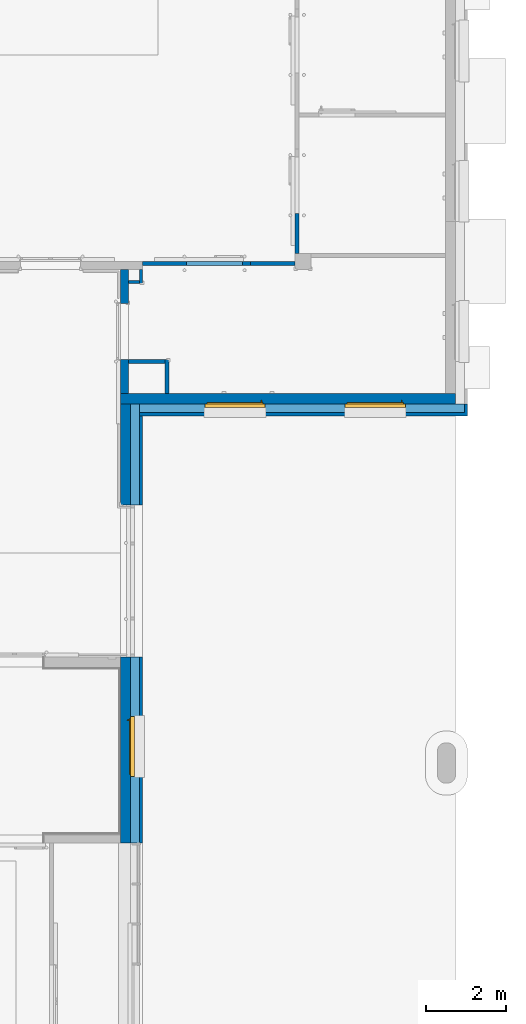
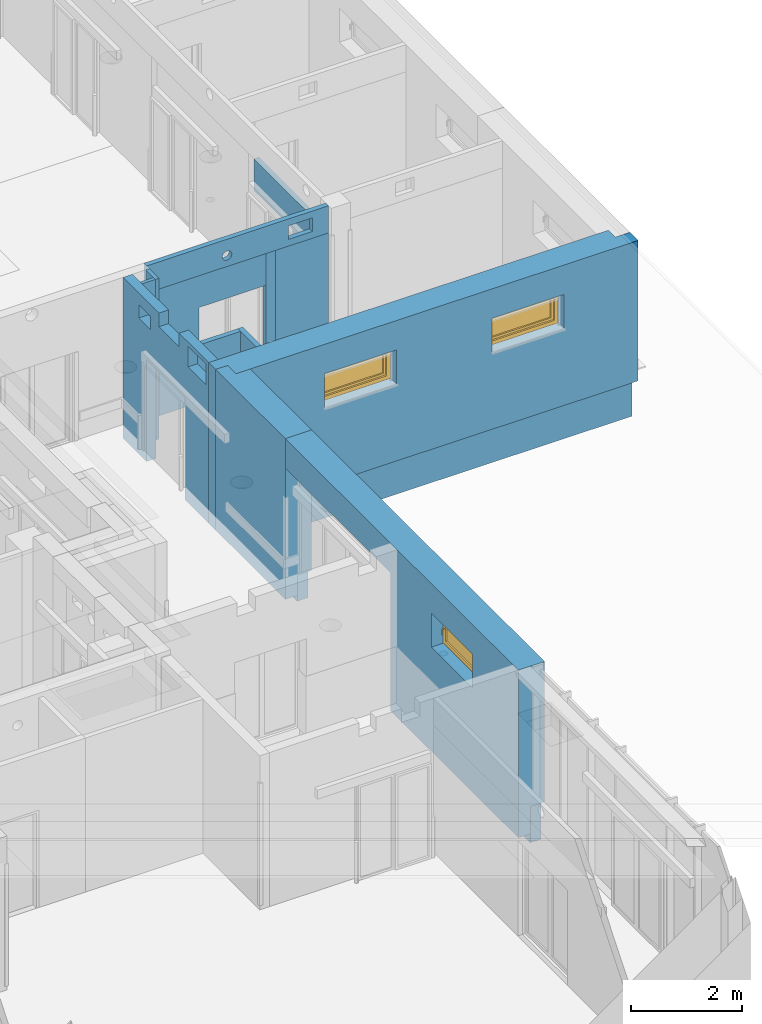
# One storey, part 56 of 140: 16 walls, 3 windows, 12 openings.
"""IFC4 building model written with IfcOpenShell, lengths in metres."""

from ifc_helpers import new_model, entity, si_unit, converted_unit, derived_unit, frame, frame_2d, origin, origin_with_axes, place, context, subcontext, project, spatial, polyline, rectangle, outline, extrude, clip, bounded_halfspace, closed_shell, open_shell, surface_model, source, transform, mapped, material, layer, layer_set, layer_usage, element, fill, save


model = new_model("IFC4")

# Units and contexts
model_context = context("Model", 3, precision=1e-05, world=origin())
body_context = subcontext(model_context, "Body", "Model", "MODEL_VIEW")
ifc_project = project(units=[si_unit("LENGTHUNIT", "METRE"), si_unit("AREAUNIT", "SQUARE_METRE"), si_unit("VOLUMEUNIT", "CUBIC_METRE"), si_unit("MASSUNIT", "GRAM", prefix="KILO"), converted_unit("PLANEANGLEUNIT", "DEGREE", entity("IfcPlaneAngleMeasure", 0.0174532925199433), si_unit("PLANEANGLEUNIT", "RADIAN"), dimensions=[0, 0, 0, 0, 0, 0, 0]), derived_unit("THERMALTRANSMITTANCEUNIT", [(si_unit("POWERUNIT", "WATT"), 1), (si_unit("THERMODYNAMICTEMPERATUREUNIT", "KELVIN"), -1), (si_unit("LENGTHUNIT", "METRE"), -2)]), derived_unit("VOLUMETRICFLOWRATEUNIT", [(si_unit("LENGTHUNIT", "METRE"), 3), (converted_unit("TIMEUNIT", "hour", entity("IfcTimeMeasure", 3600.0), si_unit("TIMEUNIT", "SECOND"), dimensions=[0, 0, 1, 0, 0, 0, 0]), -1), (si_unit("LENGTHUNIT", "METRE"), -1)])], contexts=[model_context])

# Site, building, storey
site_placement = place(None, origin())
site = spatial("IfcSite", under=ifc_project, at=site_placement, Name="3. ASŘ", CompositionType="ELEMENT")
building_placement = place(site_placement, origin())
building = spatial("IfcBuilding", under=site, at=building_placement, Name="Pavilon C", CompositionType="ELEMENT")
storey_placement = place(building_placement, origin())
storey = spatial("IfcBuildingStorey", under=building, at=storey_placement, Name="Půdorys 1.NP", CompositionType="ELEMENT", Elevation=0.0)

# Walls
ifc_material_1 = material(Name="PROSKLENÁ PŘÍČKA DVOJITÁ")
ifc_layer_1 = layer(ifc_material_1, 0.1)
ifc_layer_set_1 = layer_set([ifc_layer_1])
ifc_layer_usage_1 = layer_usage(ifc_layer_set_1, "AXIS2", "POSITIVE", 0.0)
wall_1_placement = place(storey_placement, frame((58.692, 9.79999999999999, 0.0), z_axis=(0.0, 0.0, 1.0), x_axis=(1.0, -1.64168718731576e-15, 0.0)))
element("IfcWall", 1, at=wall_1_placement, inside=storey, material=ifc_layer_usage_1, Name="PROSKLENÁ PŘÍČKA DVOJITÁ", context=body_context, shape_type="SweptSolid", body=[
    extrude(rectangle(XDim=1.108, YDim=0.1, at=frame_2d((0.554, 0.05), x_axis=(1.0, 0.0))), origin_with_axes(), (0.0, 0.0, 1.0), 2.8),
])
ifc_material_2 = material(Name="PROSKLENÁ PŘÍČKA PLNÝ PANEL")
ifc_layer_2 = layer(ifc_material_2, 0.1)
ifc_layer_set_2 = layer_set([ifc_layer_2])
ifc_layer_usage_2 = layer_usage(ifc_layer_set_2, "AXIS2", "POSITIVE", 0.0)
wall_2_placement = place(storey_placement, frame((58.492, 9.79999999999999, 0.0)))
element("IfcWall", 2, at=wall_2_placement, inside=storey, material=ifc_layer_usage_2, Name="PROSKLENÁ PŘÍČKA DVOJITÁ", context=body_context, shape_type="SweptSolid", body=[
    extrude(rectangle(XDim=0.2, YDim=0.1, at=frame_2d((0.1, 0.05), x_axis=(1.0, 0.0))), origin_with_axes(), (0.0, 0.0, 1.0), 2.8),
])

# Wall, opening
ifc_material_3 = material(Name="PROSKLENÁ PŘÍČKA DVOJITÁ")
ifc_layer_3 = layer(ifc_material_3, 0.1)
ifc_layer_set_3 = layer_set([ifc_layer_3])
ifc_layer_usage_3 = layer_usage(ifc_layer_set_3, "AXIS2", "POSITIVE", 0.0)
wall_3_placement = place(storey_placement, frame((56.0, 9.79999999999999, 0.0)))
wall_3 = element("IfcWall", 3, at=wall_3_placement, inside=storey, material=ifc_layer_usage_3, Name="PROSKLENÁ PŘÍČKA DVOJITÁ", context=body_context, shape_type="SweptSolid", body=[
    extrude(rectangle(XDim=2.492, YDim=0.1, at=frame_2d((1.246, 0.05), x_axis=(1.0, 0.0))), origin_with_axes(), (0.0, 0.0, 1.0), 2.8),
])
opening_1_placement = place(wall_3_placement, frame((2.492, 0.1, 0.0), z_axis=(0.0, -1.0, 0.0), x_axis=(0.0, 0.0, 1.0)))
element("IfcOpeningElement", 4, at=opening_1_placement, cuts=wall_3, Name="Dveřní otvor", ObjectType="Opening", context=body_context, shape_type="SweptSolid", body=[
    extrude(outline(polyline([(0.0, 1.4), (2.1, 1.4), (2.1, 0.0), (0.0, 0.0), (0.0, 1.4)])), origin_with_axes(), (0.0, 0.0, 1.0), 0.1),
])

ifc_material_4 = material(Name="PROSKLENÁ PŘÍČKA DVOJITÁ")
ifc_layer_4 = layer(ifc_material_4, 0.1)
ifc_layer_set_4 = layer_set([ifc_layer_4])
ifc_layer_usage_4 = layer_usage(ifc_layer_set_4, "AXIS2", "POSITIVE", 0.0)
wall_4_placement = place(storey_placement, frame((59.8, 12.5, 0.0), z_axis=(0.0, 0.0, 1.0), x_axis=(0.0, -1.0, 0.0)))
wall_4 = element("IfcWall", 5, at=wall_4_placement, inside=storey, material=ifc_layer_usage_4, Name="PROSKLENÁ PŘÍČKA DVOJITÁ", context=body_context, shape_type="SweptSolid", body=[
    extrude(rectangle(XDim=2.4, YDim=0.1, at=frame_2d((1.2, 0.05), x_axis=(1.0, 0.0))), origin_with_axes(), (0.0, 0.0, 1.0), 2.8),
])
opening_2_placement = place(wall_4_placement, frame((0.0, 0.0, 0.0), z_axis=(0.0, 1.0, 0.0), x_axis=(0.0, 0.0, 1.0)))
element("IfcOpeningElement", 6, at=opening_2_placement, cuts=wall_4, Name="Dveřní otvor", ObjectType="Opening", context=body_context, shape_type="SweptSolid", body=[
    extrude(outline(polyline([(0.0, 1.4), (2.1, 1.4), (2.1, 0.0), (0.0, 0.0), (0.0, 1.4)])), origin_with_axes(), (0.0, 0.0, 1.0), 0.1),
])

# Wall, openings
ifc_material_5 = material(Name="ZELEZOBETONOVÁ KCE")
ifc_layer_5 = layer(ifc_material_5, 0.2)
ifc_layer_set_5 = layer_set([ifc_layer_5])
ifc_layer_usage_5 = layer_usage(ifc_layer_set_5, "AXIS2", "POSITIVE", 0.0)
wall_5_placement = place(storey_placement, frame((55.45, 9.69999999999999, -0.15), z_axis=(0.0, 0.0, 1.0), x_axis=(0.0, -1.0, 0.0)))
wall_5 = element("IfcWall", 7, at=wall_5_placement, inside=storey, material=ifc_layer_usage_5, Name="ZELEZOBETONOVÁ KCE", context=body_context, shape_type="SweptSolid", body=[
    extrude(rectangle(XDim=3.1, YDim=0.2, at=frame_2d((1.55, 0.1), x_axis=(1.0, 0.0))), origin_with_axes(), (0.0, 0.0, 1.0), 3.55),
])
opening_3_placement = place(wall_5_placement, frame((0.85, 0.0, -0.15), z_axis=(0.0, 1.0, 0.0), x_axis=(0.0, 0.0, 1.0)))
element("IfcOpeningElement", 8, at=opening_3_placement, cuts=wall_5, Name="Dveřní otvor", ObjectType="Opening", context=body_context, shape_type="SweptSolid", body=[
    extrude(outline(polyline([(0.0, 1.4), (2.4, 1.4), (2.4, 0.0), (0.0, 0.0), (0.0, 1.4)])), origin_with_axes(), (0.0, 0.0, 1.0), 0.2),
])
opening_4_placement = place(wall_5_placement, frame((3.01000000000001, 0.199999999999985, 3.0), z_axis=(0.0, -1.0, 0.0), x_axis=(0.0, 0.0, 1.0)))
element("IfcOpeningElement", 9, at=opening_4_placement, cuts=wall_5, Name="VZT", ObjectType="Opening", context=body_context, shape_type="SweptSolid", body=[
    extrude(outline(polyline([(0.0, 0.66), (0.46, 0.66), (0.46, 0.0), (0.0, 0.0), (0.0, 0.66)])), origin_with_axes(), (0.0, 0.0, 1.0), 0.2),
])
opening_5_placement = place(wall_5_placement, frame((2.03000664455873, 0.2, 3.25), z_axis=(0.0, -1.0, 0.0), x_axis=(0.0, 0.0, 1.0)))
element("IfcOpeningElement", 10, at=opening_5_placement, cuts=wall_5, Name="VZT", ObjectType="Opening", context=body_context, shape_type="SweptSolid", body=[
    extrude(outline(polyline([(0.0, 0.730000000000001), (0.3, 0.730000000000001), (0.3, 0.0), (0.0, 0.0), (0.0, 0.730000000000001)])), origin_with_axes(), (0.0, 0.0, 1.0), 0.2),
])
opening_6_placement = place(wall_5_placement, frame((0.989281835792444, 0.2, 3.0), z_axis=(0.0, -1.0, 0.0), x_axis=(0.0, 0.0, 1.0)))
element("IfcOpeningElement", 11, at=opening_6_placement, cuts=wall_5, Name="VZT", ObjectType="Opening", context=body_context, shape_type="SweptSolid", body=[
    extrude(outline(polyline([(0.0, 0.42), (0.3, 0.42), (0.3, 0.0), (0.0, 0.0), (0.0, 0.42)])), origin_with_axes(), (0.0, 0.0, 1.0), 0.2),
])

# Wall, openings, window
ifc_material_6 = material(Name="ZELEZOBETONOVÁ KCE")
ifc_layer_6 = layer(ifc_material_6, 0.25)
ifc_material_7 = material(Name="MINERÁLNÍ VATA")
ifc_layer_7 = layer(ifc_material_7, 0.3)
ifc_layer_set_6 = layer_set([ifc_layer_6, ifc_layer_7])
ifc_layer_usage_6 = layer_usage(ifc_layer_set_6, "AXIS2", "POSITIVE", 0.0)
wall_6_placement = place(storey_placement, frame((55.45, 3.82999999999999, -0.3), z_axis=(0.0, 0.0, 1.0), x_axis=(0.0, -1.0, 0.0)))
wall_6 = element("IfcWall", 12, at=wall_6_placement, inside=storey, material=ifc_layer_usage_6, Name="ZELEZOBETONOVÁ KCE", context=body_context, shape_type="Clipping", body=[
    clip(extrude(rectangle(XDim=8.42999999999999, YDim=0.55, at=frame_2d((4.21499999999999, 0.275), x_axis=(1.0, 0.0))), origin_with_axes(), (0.0, 0.0, 1.0), 3.7), bounded_halfspace(frame((4.21499999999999, 0.4, 0.6), z_axis=(0.0, 0.0, 1.0), x_axis=(0.0, -1.0, 0.0)), True, origin_with_axes(), polyline([(0.0, 0.55), (0.0, 0.250000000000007), (8.42999999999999, 0.250000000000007), (8.42999999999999, 0.55), (0.0, 0.55)]))),
])
opening_7_placement = place(wall_6_placement, frame((3.8, 0.25, 0.0), z_axis=(0.0, -1.0, 0.0), x_axis=(0.0, 0.0, 1.0)))
element("IfcOpeningElement", 13, at=opening_7_placement, cuts=wall_6, Name="Dveřní otvor", ObjectType="Opening", context=body_context, shape_type="SweptSolid", body=[
    extrude(outline(polyline([(0.0, 3.8), (3.05, 3.8), (3.05, 0.0), (0.0, 0.0), (0.0, 3.8)])), origin_with_axes(), (0.0, 0.0, 1.0), 0.25),
    extrude(outline(polyline([(0.0, 3.8), (3.05, 3.8), (3.05, 0.0), (0.0, 0.0), (0.0, 3.8)])), frame((0.0, -1.4210854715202e-17, -0.3), z_axis=(0.0, 0.0, 1.0), x_axis=(1.0, 0.0, 0.0)), (0.0, 0.0, 1.0), 0.3),
])
opening_8_placement = place(wall_6_placement, frame((6.77999999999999, 0.25, 2.3), z_axis=(0.0, -1.0, 0.0), x_axis=(0.0, 0.0, 1.0)))
opening_8 = element("IfcOpeningElement", 14, at=opening_8_placement, cuts=wall_6, Name="Okenní otvor", ObjectType="Opening", context=body_context, shape_type="SweptSolid", body=[
    extrude(outline(polyline([(0.0, 1.5), (0.75, 1.5), (0.75, 0.0), (0.0, 0.0), (0.0, 1.5)])), origin_with_axes(), (0.0, 0.0, 1.0), 0.25),
    extrude(outline(polyline([(0.0, 1.5), (0.75, 1.5), (0.75, 0.0), (0.0, 0.0), (0.0, 1.5)])), frame((0.0, 0.0, -0.3), z_axis=(0.0, 0.0, 1.0), x_axis=(1.0, 0.0, 0.0)), (0.0, 0.0, 1.0), 0.3),
])
shared_shape = source(origin_with_axes(), body_context, "Body", "SurfaceModel", [
    surface_model("IfcShellBasedSurfaceModel", [(0.0, 0.0920000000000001, 0.75), (0.0, 0.092, -5.63337527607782e-18), (0.08, 0.092, -5.63337527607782e-18), (0.08, 0.0920000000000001, 0.75), (0.0, 0.0, 5.63337527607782e-18), (0.0, 8.5265128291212e-17, 0.75), (0.08, 8.5265128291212e-17, 0.75), (0.08, 0.0, 5.63337527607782e-18)], [closed_shell([[[0, 1, 2, 3]], [[4, 5, 6, 7]], [[1, 0, 5, 4]], [[2, 1, 4, 7]], [[3, 2, 7, 6]], [[0, 3, 6, 5]]], orient=[[False], [False], [False], [False], [False], [False]])]),
    surface_model("IfcShellBasedSurfaceModel", [(1.42, 0.0920000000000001, 0.75), (1.42, 0.092, -5.63337527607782e-18), (1.5, 0.092, -5.63337527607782e-18), (1.5, 0.0920000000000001, 0.75), (1.42, 0.0, 5.63337527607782e-18), (1.42, 8.5265128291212e-17, 0.75), (1.5, 8.5265128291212e-17, 0.75), (1.5, 0.0, 5.63337527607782e-18)], [closed_shell([[[0, 1, 2, 3]], [[4, 5, 6, 7]], [[1, 0, 5, 4]], [[2, 1, 4, 7]], [[3, 2, 7, 6]], [[0, 3, 6, 5]]], orient=[[False], [False], [False], [False], [False], [False]])]),
    surface_model("IfcShellBasedSurfaceModel", [(0.08, 0.092, 0.08), (0.08, 0.092, -5.63337527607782e-18), (1.42, 0.092, -5.63337527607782e-18), (1.42, 0.092, 0.08), (0.08, 0.0, 5.63337527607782e-18), (0.08, 1.4210854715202e-17, 0.08), (1.42, 1.4210854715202e-17, 0.08), (1.42, 0.0, 5.63337527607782e-18)], [closed_shell([[[0, 1, 2, 3]], [[4, 5, 6, 7]], [[1, 0, 5, 4]], [[2, 1, 4, 7]], [[3, 2, 7, 6]], [[0, 3, 6, 5]]], orient=[[False], [False], [False], [False], [False], [False]])]),
    surface_model("IfcShellBasedSurfaceModel", [(0.08, 0.0920000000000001, 0.75), (0.08, 0.0920000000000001, 0.67), (1.42, 0.0920000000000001, 0.67), (1.42, 0.0920000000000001, 0.75), (0.08, 8.5265128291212e-17, 0.67), (0.08, 9.9475983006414e-17, 0.75), (1.42, 9.9475983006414e-17, 0.75), (1.42, 8.5265128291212e-17, 0.67)], [closed_shell([[[0, 1, 2, 3]], [[4, 5, 6, 7]], [[1, 0, 5, 4]], [[2, 1, 4, 7]], [[3, 2, 7, 6]], [[0, 3, 6, 5]]], orient=[[False], [False], [False], [False], [False], [False]])]),
    surface_model("IfcShellBasedSurfaceModel", [(0.05, 0.122, 0.7), (0.05, 0.122, 0.05), (0.13, 0.122, 0.05), (0.13, 0.122, 0.7), (0.05, 0.037, 0.05), (0.05, 0.0370000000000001, 0.7), (0.13, 0.0370000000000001, 0.7), (0.13, 0.037, 0.05)], [closed_shell([[[0, 1, 2, 3]], [[4, 5, 6, 7]], [[1, 0, 5, 4]], [[2, 1, 4, 7]], [[3, 2, 7, 6]], [[0, 3, 6, 5]]], orient=[[False], [False], [False], [False], [False], [False]])]),
    surface_model("IfcShellBasedSurfaceModel", [(1.37, 0.122, 0.7), (1.37, 0.122, 0.05), (1.45, 0.122, 0.05), (1.45, 0.122, 0.7), (1.37, 0.037, 0.05), (1.37, 0.0370000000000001, 0.7), (1.45, 0.0370000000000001, 0.7), (1.45, 0.037, 0.05)], [closed_shell([[[0, 1, 2, 3]], [[4, 5, 6, 7]], [[1, 0, 5, 4]], [[2, 1, 4, 7]], [[3, 2, 7, 6]], [[0, 3, 6, 5]]], orient=[[False], [False], [False], [False], [False], [False]])]),
    surface_model("IfcShellBasedSurfaceModel", [(0.13, 0.122, 0.13), (0.13, 0.122, 0.05), (1.37, 0.122, 0.05), (1.37, 0.122, 0.13), (0.13, 0.037, 0.05), (0.13, 0.037, 0.13), (1.37, 0.037, 0.13), (1.37, 0.037, 0.05)], [closed_shell([[[0, 1, 2, 3]], [[4, 5, 6, 7]], [[1, 0, 5, 4]], [[2, 1, 4, 7]], [[3, 2, 7, 6]], [[0, 3, 6, 5]]], orient=[[False], [False], [False], [False], [False], [False]])]),
    surface_model("IfcShellBasedSurfaceModel", [(0.13, 0.122, 0.7), (0.13, 0.122, 0.62), (1.37, 0.122, 0.62), (1.37, 0.122, 0.7), (0.13, 0.0370000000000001, 0.62), (0.13, 0.0370000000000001, 0.7), (1.37, 0.0370000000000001, 0.7), (1.37, 0.0370000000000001, 0.62)], [closed_shell([[[0, 1, 2, 3]], [[4, 5, 6, 7]], [[1, 0, 5, 4]], [[2, 1, 4, 7]], [[3, 2, 7, 6]], [[0, 3, 6, 5]]], orient=[[False], [False], [False], [False], [False], [False]])]),
    surface_model("IfcShellBasedSurfaceModel", [(0.0775, 0.122, 0.4), (0.1025, 0.122, 0.4), (0.1025, 0.122, 0.36), (0.0775, 0.122, 0.36), (0.0775, 0.132, 0.36), (0.1025, 0.132, 0.36), (0.1025, 0.132, 0.4), (0.0775, 0.132, 0.4)], [closed_shell([[[0, 1, 2, 3]], [[4, 5, 6, 7]], [[3, 4, 7, 0]], [[2, 5, 4, 3]], [[1, 6, 5, 2]], [[0, 7, 6, 1]]], orient=[[False], [False], [False], [False], [False], [False]])]),
    surface_model("IfcShellBasedSurfaceModel", [(0.1, 0.132, 0.38), (0.0986602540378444, 0.132, 0.375), (0.095, 0.132, 0.371339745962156), (0.09, 0.132, 0.37), (0.085, 0.132, 0.371339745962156), (0.0813397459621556, 0.132, 0.375), (0.08, 0.132, 0.38), (0.0813397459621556, 0.132, 0.385), (0.085, 0.132, 0.388660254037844), (0.09, 0.132, 0.39), (0.095, 0.132, 0.388660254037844), (0.0986602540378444, 0.132, 0.385), (0.0986602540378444, 0.177, 0.385), (0.1, 0.172, 0.38), (0.095, 0.180660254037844, 0.388660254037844), (0.09, 0.182, 0.39), (0.085, 0.180660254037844, 0.388660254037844), (0.0813397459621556, 0.177, 0.385), (0.08, 0.172, 0.38), (0.0813397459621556, 0.167, 0.375), (0.085, 0.163339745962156, 0.371339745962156), (0.09, 0.162, 0.37), (0.095, 0.163339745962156, 0.371339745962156), (0.0986602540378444, 0.167, 0.375), (0.0986602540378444, 0.177, 0.265), (0.1, 0.172, 0.265), (0.095, 0.180660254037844, 0.265), (0.09, 0.182, 0.265), (0.085, 0.180660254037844, 0.265), (0.0813397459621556, 0.177, 0.265), (0.08, 0.172, 0.265), (0.0813397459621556, 0.167, 0.265), (0.085, 0.163339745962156, 0.265), (0.09, 0.162, 0.265), (0.095, 0.163339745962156, 0.265), (0.0986602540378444, 0.167, 0.265)], [open_shell([[[0, 1, 2, 3, 4, 5, 6, 7, 8, 9, 10, 11]], [[0, 11, 12, 13]], [[11, 10, 14, 12]], [[10, 9, 15, 14]], [[9, 8, 16, 15]], [[8, 7, 17, 16]], [[7, 6, 18, 17]], [[6, 5, 19, 18]], [[5, 4, 20, 19]], [[4, 3, 21, 20]], [[3, 2, 22, 21]], [[2, 1, 23, 22]], [[1, 0, 13, 23]], [[13, 12, 24, 25]], [[12, 14, 26, 24]], [[14, 15, 27, 26]], [[15, 16, 28, 27]], [[16, 17, 29, 28]], [[17, 18, 30, 29]], [[18, 19, 31, 30]], [[19, 20, 32, 31]], [[20, 21, 33, 32]], [[21, 22, 34, 33]], [[22, 23, 35, 34]], [[23, 13, 25, 35]]], orient=[[False], [False], [False], [False], [False], [False], [False], [False], [False], [False], [False], [False], [False], [False], [False], [False], [False], [False], [False], [False], [False], [False], [False], [False], [False]])]),
    surface_model("IfcShellBasedSurfaceModel", [(0.13, 0.0895, 0.62), (0.13, 0.0895, 0.13), (1.37, 0.0895, 0.13), (1.37, 0.0895, 0.62), (0.13, 0.0695, 0.13), (0.13, 0.0695, 0.62), (1.37, 0.0695, 0.62), (1.37, 0.0695, 0.13)], [closed_shell([[[0, 1, 2, 3]], [[4, 5, 6, 7]], [[1, 0, 5, 4]], [[2, 1, 4, 7]], [[3, 2, 7, 6]], [[0, 3, 6, 5]]], orient=[[False], [False], [False], [False], [False], [False]])]),
])
window_1_placement = place(opening_8_placement, frame((0.0, 1.5, -0.0919999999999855), z_axis=(1.0, 0.0, 0.0), x_axis=(0.0, -1.0, 1.22464679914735e-16)))
window_1 = element("IfcWindow", 15, at=window_1_placement, inside=storey, Name="I.OH01", OverallHeight=0.75, OverallWidth=1.5, PartitioningType="USERDEFINED", PredefinedType="WINDOW", context=body_context, shape_type="MappedRepresentation", body=[
    mapped(shared_shape, transform((0.0, 0.0, 0.0), x_axis=(1.0, 0.0, 0.0), y_axis=(0.0, -1.0, 0.0), z_axis=(0.0, 0.0, 1.0), scale=1.0)),
])
fill(opening_8, window_1)

# Walls
ifc_material_8 = material(Name="ZELEZOBETONOVÁ KCE")
ifc_layer_8 = layer(ifc_material_8, 0.25)
ifc_material_9 = material(Name="MINERÁLNÍ VATA")
ifc_layer_9 = layer(ifc_material_9, 0.3)
ifc_layer_set_7 = layer_set([ifc_layer_8, ifc_layer_9])
ifc_layer_usage_7 = layer_usage(ifc_layer_set_7, "AXIS2", "POSITIVE", 0.0)
wall_7_placement = place(storey_placement, frame((55.45, 6.34999999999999, -0.15), z_axis=(0.0, 0.0, 1.0), x_axis=(0.0, -1.0, 0.0)))
element("IfcWall", 16, at=wall_7_placement, inside=storey, material=ifc_layer_usage_7, Name="ZELEZOBETONOVÁ KCE", context=body_context, shape_type="Clipping", body=[
    clip(extrude(outline(polyline([(-2.22, 0.55), (-2.22, 0.25), (-2.52, 0.25), (-2.52, 0.0), (0.0, 0.0), (0.0, 0.55), (-2.22, 0.55)])), frame((2.52, 0.0, 0.0), z_axis=(0.0, 0.0, 1.0), x_axis=(1.0, 0.0, 0.0)), (0.0, 0.0, 1.0), 3.55), bounded_halfspace(frame((1.41, 0.4, 0.45), z_axis=(0.0, 0.0, 1.0), x_axis=(0.0, -1.0, 0.0)), True, origin_with_axes(), polyline([(0.3, 0.55), (0.3, 0.25), (2.52, 0.250000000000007), (2.52, 0.55), (0.3, 0.55)]))),
])
ifc_material_10 = material(Name="PERIMETR")
ifc_layer_10 = layer(ifc_material_10, 0.22)
ifc_layer_set_8 = layer_set([ifc_layer_10])
ifc_layer_usage_8 = layer_usage(ifc_layer_set_8, "AXIS2", "POSITIVE", 0.0)
wall_8_placement = place(storey_placement, frame((55.7000000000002, 0.0299999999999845, -0.5), z_axis=(0.0, 0.0, 1.0), x_axis=(0.0, -1.0, 0.0)))
element("IfcWall", 17, at=wall_8_placement, inside=storey, material=ifc_layer_usage_8, Name="PERIMETR", context=body_context, shape_type="SweptSolid", body=[
    extrude(rectangle(XDim=4.62999999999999, YDim=0.22, at=frame_2d((2.315, 0.11), x_axis=(1.0, 0.0))), origin_with_axes(), (0.0, 0.0, 1.0), 0.8),
])
ifc_material_11 = material(Name="PERIMETR")
ifc_layer_11 = layer(ifc_material_11, 0.22)
ifc_layer_set_9 = layer_set([ifc_layer_11])
ifc_layer_usage_9 = layer_usage(ifc_layer_set_9, "AXIS2", "POSITIVE", 0.0)
wall_9_placement = place(storey_placement, frame((55.7, 6.34999999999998, -0.28), z_axis=(0.0, 0.0, 1.0), x_axis=(0.0, -1.0, 0.0)))
element("IfcWall", 18, at=wall_9_placement, inside=storey, material=ifc_layer_usage_9, Name="PERIMETR", context=body_context, shape_type="SweptSolid", body=[
    extrude(rectangle(XDim=2.52, YDim=0.22, at=frame_2d((1.26, 0.11), x_axis=(1.0, 0.0))), origin_with_axes(), (0.0, 0.0, 1.0), 0.58),
])
ifc_material_12 = material(Name="PERIMETR")
ifc_layer_12 = layer(ifc_material_12, 0.22)
ifc_layer_set_10 = layer_set([ifc_layer_12])
ifc_layer_usage_10 = layer_usage(ifc_layer_set_10, "AXIS2", "POSITIVE", 0.0)
wall_10_placement = place(storey_placement, frame((64.02, 6.34999999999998, -0.5), z_axis=(0.0, 0.0, 1.0), x_axis=(-1.0, 0.0, 0.0)))
element("IfcWall", 19, at=wall_10_placement, inside=storey, material=ifc_layer_usage_10, Name="PERIMETR", context=body_context, shape_type="SweptSolid", body=[
    extrude(rectangle(XDim=8.1, YDim=0.22, at=frame_2d((4.05, 0.11), x_axis=(1.0, 0.0))), origin_with_axes(), (0.0, 0.0, 1.0), 0.8),
])

# Wall, openings, windows
ifc_material_13 = material(Name="ZELEZOBETONOVÁ KCE")
ifc_layer_13 = layer(ifc_material_13, 0.25)
ifc_material_14 = material(Name="MINERÁLNÍ VATA")
ifc_layer_14 = layer(ifc_material_14, 0.3)
ifc_layer_set_11 = layer_set([ifc_layer_13, ifc_layer_14])
ifc_layer_usage_11 = layer_usage(ifc_layer_set_11, "AXIS2", "POSITIVE", 0.0)
wall_11_placement = place(storey_placement, frame((63.8, 6.59999999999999, -0.15), z_axis=(0.0, 0.0, 1.0), x_axis=(-1.0, 0.0, 0.0)))
wall_11 = element("IfcWall", 20, at=wall_11_placement, inside=storey, material=ifc_layer_usage_11, Name="ZELEZOBETONOVÁ KCE", context=body_context, shape_type="Clipping", body=[
    clip(extrude(outline(polyline([(-8.35, -0.55), (0.0, -0.55), (0.0, -0.3), (-0.25, -0.3), (-0.25, 0.0), (-8.65, 0.0), (-8.65, -0.3), (-8.35, -0.3), (-8.35, -0.55)])), frame((8.35, 0.55, 0.0), z_axis=(0.0, 0.0, 1.0), x_axis=(1.0, 0.0, 0.0)), (0.0, 0.0, 1.0), 3.55), bounded_halfspace(frame((3.11999999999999, 0.37, 0.45), z_axis=(0.0, 0.0, 1.0), x_axis=(0.0, -1.0, 0.0)), True, origin_with_axes(), polyline([(-0.300000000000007, 0.55), (-0.300000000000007, 0.25), (-7.27595761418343e-15, 0.25), (8.09999999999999, 0.25), (8.09999999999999, 0.55), (-0.300000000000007, 0.55)]))),
])
opening_9_placement = place(wall_11_placement, frame((6.25, 0.25, 2.15), z_axis=(0.0, -1.0, 0.0), x_axis=(0.0, 0.0, 1.0)))
opening_9 = element("IfcOpeningElement", 21, at=opening_9_placement, cuts=wall_11, Name="Okenní otvor", ObjectType="Opening", context=body_context, shape_type="SweptSolid", body=[
    extrude(outline(polyline([(0.0, 1.5), (0.75, 1.5), (0.75, 0.0), (0.0, 0.0), (0.0, 1.5)])), origin_with_axes(), (0.0, 0.0, 1.0), 0.25),
    extrude(outline(polyline([(0.0, 1.5), (0.75, 1.5), (0.75, 0.0), (0.0, 0.0), (0.0, 1.5)])), frame((0.0, 0.0, -0.3), z_axis=(0.0, 0.0, 1.0), x_axis=(1.0, 0.0, 0.0)), (0.0, 0.0, 1.0), 0.3),
])
opening_10_placement = place(wall_11_placement, frame((2.75, 0.25, 2.15), z_axis=(0.0, -1.0, 0.0), x_axis=(0.0, 0.0, 1.0)))
opening_10 = element("IfcOpeningElement", 22, at=opening_10_placement, cuts=wall_11, Name="Okenní otvor", ObjectType="Opening", context=body_context, shape_type="SweptSolid", body=[
    extrude(outline(polyline([(0.0, 1.5), (0.75, 1.5), (0.75, 0.0), (0.0, 0.0), (0.0, 1.5)])), origin_with_axes(), (0.0, 0.0, 1.0), 0.25),
    extrude(outline(polyline([(0.0, 1.5), (0.75, 1.5), (0.75, 0.0), (0.0, 0.0), (0.0, 1.5)])), frame((0.0, 0.0, -0.3), z_axis=(0.0, 0.0, 1.0), x_axis=(1.0, 0.0, 0.0)), (0.0, 0.0, 1.0), 0.3),
])
window_2_placement = place(opening_9_placement, frame((0.0, 1.5, -0.092), z_axis=(1.0, 0.0, 0.0), x_axis=(0.0, -1.0, 0.0)))
window_2 = element("IfcWindow", 23, at=window_2_placement, inside=storey, Name="I.OH01", OverallHeight=0.75, OverallWidth=1.5, PartitioningType="USERDEFINED", PredefinedType="WINDOW", context=body_context, shape_type="MappedRepresentation", body=[
    mapped(shared_shape, transform((0.0, 0.0, 0.0), x_axis=(1.0, 0.0, 0.0), y_axis=(0.0, -1.0, 0.0), z_axis=(0.0, 0.0, 1.0), scale=1.0)),
])
fill(opening_9, window_2)
window_3_placement = place(opening_10_placement, frame((0.0, 1.5, -0.092), z_axis=(1.0, 0.0, 0.0), x_axis=(0.0, -1.0, 0.0)))
window_3 = element("IfcWindow", 24, at=window_3_placement, inside=storey, Name="I.OH01", OverallHeight=0.75, OverallWidth=1.5, PartitioningType="USERDEFINED", PredefinedType="WINDOW", context=body_context, shape_type="MappedRepresentation", body=[
    mapped(shared_shape, transform((0.0, 0.0, 0.0), x_axis=(1.0, 0.0, 0.0), y_axis=(0.0, -1.0, 0.0), z_axis=(0.0, 0.0, 1.0), scale=1.0)),
])
fill(opening_10, window_3)

# Wall, openings
ifc_material_15 = material(Name="SDK - OCEL. KCE + 2 OPLÁŠTĚNÍ")
ifc_layer_15 = layer(ifc_material_15, 0.1)
ifc_layer_set_12 = layer_set([ifc_layer_15])
ifc_layer_usage_12 = layer_usage(ifc_layer_set_12, "AXIS2", "POSITIVE", 0.0)
wall_12_placement = place(storey_placement, frame((56.0, 9.79999999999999, 2.8), z_axis=(0.0, 0.0, 1.0), x_axis=(1.0, -4.78681421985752e-16, 0.0)))
wall_12 = element("IfcWall", 25, at=wall_12_placement, inside=storey, material=ifc_layer_usage_12, Name="SDK - OCEL. KCE + 2 OPLÁŠTĚNÍ", context=body_context, shape_type="SweptSolid", body=[
    extrude(rectangle(XDim=3.8, YDim=0.1, at=frame_2d((1.9, 0.05), x_axis=(1.0, 0.0))), origin_with_axes(), (0.0, 0.0, 1.0), 0.6),
])
opening_11_placement = place(wall_12_placement, frame((2.95995377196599, -4.02114522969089e-16, 0.15), z_axis=(0.0, 1.0, 0.0), x_axis=(0.0, 0.0, 1.0)))
element("IfcOpeningElement", 26, at=opening_11_placement, cuts=wall_12, Name="VZT", ObjectType="Opening", context=body_context, shape_type="SweptSolid", body=[
    extrude(outline(polyline([(0.0, 0.5), (0.3, 0.5), (0.3, 0.0), (0.0, 0.0), (0.0, 0.5)])), origin_with_axes(), (0.0, 0.0, 1.0), 0.1),
])
opening_12_placement = place(wall_12_placement, frame((1.78000000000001, 0.100000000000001, 0.14), z_axis=(0.0, -1.0, 0.0), x_axis=(0.0, 0.0, 1.0)))
element("IfcOpeningElement", 27, at=opening_12_placement, cuts=wall_12, Name="ZTI", ObjectType="Opening", context=body_context, shape_type="SweptSolid", body=[
    extrude(outline(polyline([(0.0999999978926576, 0.2), (0.110452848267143, 0.199452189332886), (0.120791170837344, 0.197814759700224), (0.130901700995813, 0.195105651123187), (0.14067366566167, 0.191354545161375), (0.150000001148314, 0.186602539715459), (0.15877852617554, 0.180901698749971), (0.166913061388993, 0.174314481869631), (0.174314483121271, 0.166913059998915), (0.180901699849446, 0.158778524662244), (0.186602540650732, 0.149999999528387), (0.191354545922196, 0.140673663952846), (0.195105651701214, 0.130901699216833), (0.197814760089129, 0.120791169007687), (0.19945218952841, 0.110452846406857), (0.2, 0.100000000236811), (0.199452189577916, 0.0895471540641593), (0.197814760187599, 0.0792088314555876), (0.195105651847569, 0.0690983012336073), (0.191354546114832, 0.0593263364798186), (0.186602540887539, 0.0500000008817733), (0.180901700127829, 0.0412214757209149), (0.174314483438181, 0.0330869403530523), (0.166913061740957, 0.0256855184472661), (0.158778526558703, 0.0190983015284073), (0.150000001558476, 0.0133974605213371), (0.140673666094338, 0.00864545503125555), (0.130901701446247, 0.00489434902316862), (0.120791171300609, 0.00218524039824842), (0.110452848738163, 0.000547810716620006), (0.0999999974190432, 0.0), (0.0895471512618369, 0.000547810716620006), (0.0792088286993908, 0.00218524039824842), (0.069098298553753, 0.00489434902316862), (0.0593263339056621, 0.00864545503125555), (0.0499999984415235, 0.0133974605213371), (0.0412214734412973, 0.0190983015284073), (0.0330869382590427, 0.0256855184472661), (0.0256855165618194, 0.0330869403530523), (0.0190982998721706, 0.0412214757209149), (0.0133974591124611, 0.0500000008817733), (0.00864545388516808, 0.0593263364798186), (0.00489434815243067, 0.0690983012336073), (0.00218523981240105, 0.0792088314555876), (0.00054781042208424, 0.0895471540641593), (0.0, 0.100000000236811), (0.00054781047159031, 0.110452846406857), (0.00218523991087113, 0.120791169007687), (0.00489434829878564, 0.130901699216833), (0.00864545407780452, 0.140673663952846), (0.013397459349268, 0.149999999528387), (0.0190983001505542, 0.158778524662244), (0.0256855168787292, 0.166913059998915), (0.0330869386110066, 0.174314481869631), (0.0412214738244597, 0.180901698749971), (0.0499999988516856, 0.186602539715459), (0.0593263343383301, 0.191354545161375), (0.0690982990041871, 0.195105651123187), (0.0792088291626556, 0.197814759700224), (0.0895471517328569, 0.199452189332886), (0.0999999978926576, 0.2)])), origin_with_axes(), (0.0, 0.0, 1.0), 0.1),
])

# Walls
ifc_material_16 = material(Name="SDK OPL. PROFESÍ/SDK OPL. BEZ PO")
ifc_layer_16 = layer(ifc_material_16, 0.1)
ifc_layer_set_13 = layer_set([ifc_layer_16])
ifc_layer_usage_13 = layer_usage(ifc_layer_set_13, "AXIS2", "POSITIVE", 0.0)
wall_13_placement = place(storey_placement, frame((55.65, 7.34999999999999, 0.0)))
element("IfcWall", 28, at=wall_13_placement, inside=storey, material=ifc_layer_usage_13, Name="SDK OPL. PROFESÍ/SDK OPL. BEZ PO", context=body_context, shape_type="SweptSolid", body=[
    extrude(rectangle(XDim=0.9, YDim=0.1, at=frame_2d((0.45, 0.05), x_axis=(1.0, 0.0))), origin_with_axes(), (0.0, 0.0, 1.0), 3.25),
])
ifc_material_17 = material(Name="SDK OPL. PROFESÍ/SDK OPL. BEZ PO")
ifc_layer_17 = layer(ifc_material_17, 0.075)
ifc_layer_set_14 = layer_set([ifc_layer_17])
ifc_layer_usage_14 = layer_usage(ifc_layer_set_14, "AXIS2", "POSITIVE", 0.0)
wall_14_placement = place(storey_placement, frame((55.65, 9.34999999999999, -0.15)))
element("IfcWall", 29, at=wall_14_placement, inside=storey, material=ifc_layer_usage_14, Name="SDK OPL. PROFESÍ/SDK OPL. BEZ PO", context=body_context, shape_type="SweptSolid", body=[
    extrude(rectangle(XDim=0.275, YDim=0.075, at=frame_2d((0.1375, 0.0375), x_axis=(1.0, 0.0))), origin_with_axes(), (0.0, 0.0, 1.0), 3.55),
])
ifc_material_18 = material(Name="SDK OPL. PROFESÍ/SDK OPL. BEZ PO")
ifc_layer_18 = layer(ifc_material_18, 0.075)
ifc_layer_set_15 = layer_set([ifc_layer_18])
ifc_layer_usage_15 = layer_usage(ifc_layer_set_15, "AXIS2", "POSITIVE", 0.0)
wall_15_placement = place(storey_placement, frame((56.0, 9.34999999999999, -0.15), z_axis=(0.0, 0.0, 1.0), x_axis=(0.0, 1.0, 0.0)))
element("IfcWall", 30, at=wall_15_placement, inside=storey, material=ifc_layer_usage_15, Name="SDK OPL. PROFESÍ/SDK OPL. BEZ PO", context=body_context, shape_type="SweptSolid", body=[
    extrude(rectangle(XDim=0.35, YDim=0.075, at=frame_2d((0.175, 0.0375), x_axis=(1.0, 0.0))), origin_with_axes(), (0.0, 0.0, 1.0), 3.55),
])
ifc_material_19 = material(Name="SDK OPL. PROFESÍ/SDK OPL. BEZ PO")
ifc_layer_19 = layer(ifc_material_19, 0.1)
ifc_layer_set_16 = layer_set([ifc_layer_19])
ifc_layer_usage_16 = layer_usage(ifc_layer_set_16, "AXIS2", "POSITIVE", 0.0)
wall_16_placement = place(storey_placement, frame((56.55, 7.44999999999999, 0.0), z_axis=(0.0, 0.0, 1.0), x_axis=(0.0, -1.0, 0.0)))
element("IfcWall", 31, at=wall_16_placement, inside=storey, material=ifc_layer_usage_16, Name="SDK OPL. PROFESÍ/SDK OPL. BEZ PO", context=body_context, shape_type="SweptSolid", body=[
    extrude(rectangle(XDim=0.85, YDim=0.1, at=frame_2d((0.425, 0.05), x_axis=(1.0, 0.0))), origin_with_axes(), (0.0, 0.0, 1.0), 3.25),
])

save(model, "model.ifc")
